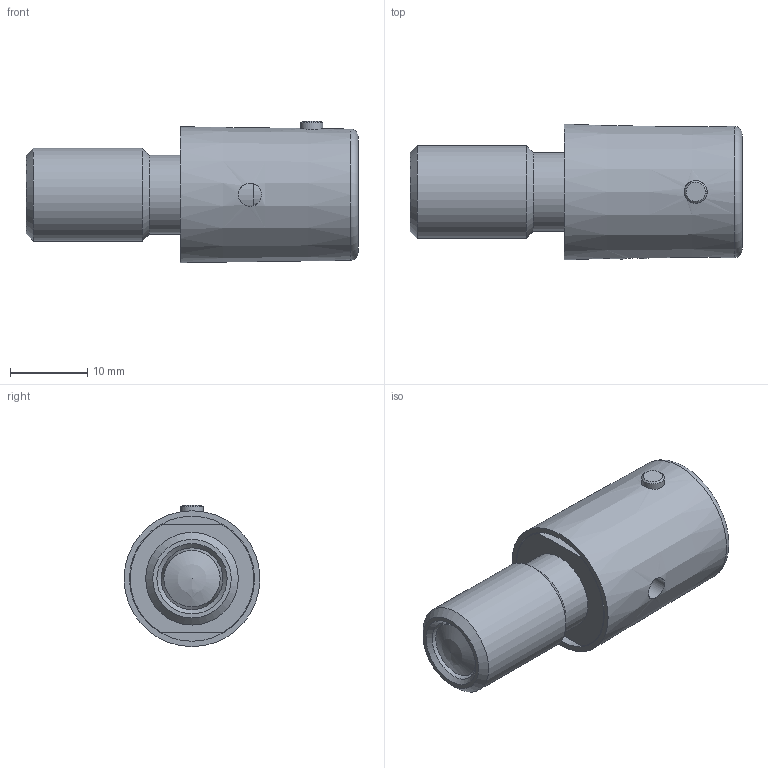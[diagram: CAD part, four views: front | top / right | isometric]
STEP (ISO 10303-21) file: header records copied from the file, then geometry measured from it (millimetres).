
FILE_DESCRIPTION( ( 'STEP AP203' ), '1' );
FILE_NAME( 'C:/Temp/Ganter_Step_05_03_2020/data/3_1/gn816/gn_816_b/Locking plunger GN 816-8-M12x1,5-B (activated).stp', '2020-03-12T08:55:56', ( 'License CC BY-ND 4.0' ), ( 'CADENAS' ), ' ', 'PARTsolutions', ' ' );
FILE_SCHEMA( ( 'CONFIG_CONTROL_DESIGN' ) );
Length unit declared in the file: millimetre
Products named in the file (3): Locking plunger GN 816-8-M12x1,5-B (activated); _GN 816-8-M12x1,5-B(1)-b2; _GN 816-8-M12x1,5-Bb1
Assembly tree (2 placements, depth 2):
  Locking plunger GN 816-8-M12x1,5-B (activated)
    _GN 816-8-M12x1,5-B(1)-b2
    _GN 816-8-M12x1,5-Bb1
Bounding box: 43 x 17.59 x 18.3 mm (x, y, z)
Volume: 6187.7 mm3; surface area: 5188.9 mm2
Topology: 2 solids, 2 shells, 38 faces, 73 edges, 46 vertices
Faces by surface type: cylinder 13, plane 13, cone 9, torus 2, sphere 1
Full cylindrical faces by diameter (mm): 2.9 x2, 3 x2, 5.9 x1, 8 x2, 10.2 x1, 11.1 x1, 12 x1, 16.2 x1
Entity records: 1226 total; most frequent: CARTESIAN_POINT 430, DIRECTION 154, ORIENTED_EDGE 92, EDGE_LOOP 74, AXIS2_PLACEMENT_3D 73, FACE_OUTER_BOUND 51, EDGE_CURVE 46, VERTEX_POINT 43
